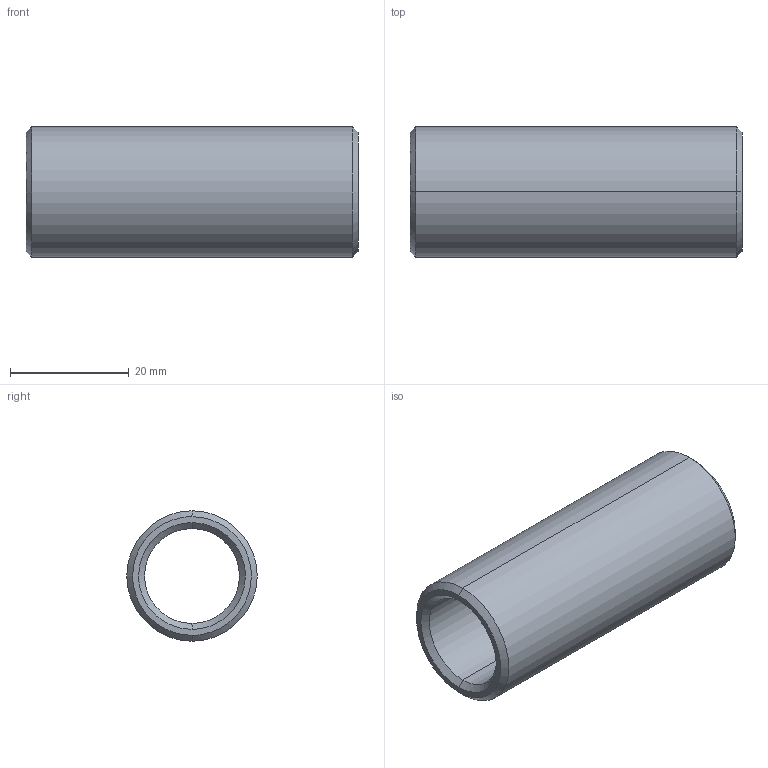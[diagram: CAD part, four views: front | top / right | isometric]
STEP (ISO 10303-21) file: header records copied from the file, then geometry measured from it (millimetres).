
FILE_DESCRIPTION(('CATIA V5 STEP Exchange'),'2;1');
FILE_NAME('C:\Users\Utente\Desktop\IO LAVORO\3D X SITO CF\X SITO\PLASTICA\352\352-16X56.stp','2021-04-10T09:04:11+00:00',('none'),('none'),'CATIA Version 5 Release 20 GA (IN-10)','CATIA V5 STEP AP203','none');
FILE_SCHEMA(('CONFIG_CONTROL_DESIGN'));
Length unit declared in the file: millimetre
Products named in the file (1): 352-16X56
Bounding box: 56 x 22 x 22 mm (x, y, z)
Volume: 9923.7 mm3; surface area: 6910.6 mm2
Topology: 1 solids, 1 shells, 14 faces, 44 edges, 32 vertices
Faces by surface type: cone 6, cylinder 4, plane 2, torus 2
Entity records: 634 total; most frequent: CARTESIAN_POINT 203, ORIENTED_EDGE 88, DIRECTION 64, EDGE_CURVE 44, AXIS2_PLACEMENT_3D 41, VERTEX_POINT 32, CIRCLE 26, EDGE_LOOP 16
